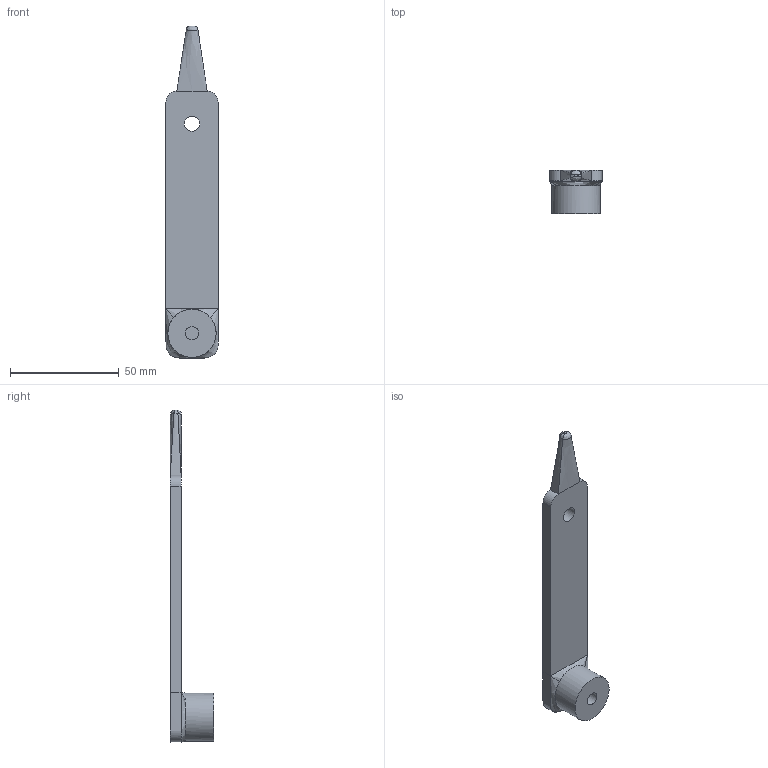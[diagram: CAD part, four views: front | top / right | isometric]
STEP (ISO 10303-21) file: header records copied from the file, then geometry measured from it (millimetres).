
FILE_DESCRIPTION(/* description */ (''),/* implementation_level */ '2;1');
FILE_NAME(/* name */ 'Link_Three.step',/* time_stamp */ '2026-01-10T17:45:08+05:30',/* author */ (''),/* organization */ (''),/* preprocessor_version */ 'ST-DEVELOPER v20.1',/* originating_system */ 'Autodesk Translation Framework v14.21.0.0',/* authorisation */ '');
FILE_SCHEMA (('AUTOMOTIVE_DESIGN { 1 0 10303 214 3 1 1 }'));
Length unit declared in the file: millimetre
Products named in the file (2): (Unsaved); Base Plate
Assembly tree (1 placements, depth 2):
  (Unsaved)
    Base Plate
Bounding box: 24 x 20 x 152.8 mm (x, y, z)
Volume: 21092.4 mm3; surface area: 9252.4 mm2
Topology: 1 solids, 1 shells, 23 faces, 49 edges, 29 vertices
Faces by surface type: bspline 11, plane 7, cylinder 5
Full cylindrical faces by diameter (mm): 6.1 x1, 7 x1, 22.2 x1
Entity records: 1701 total; most frequent: CARTESIAN_POINT 1195, ORIENTED_EDGE 98, DIRECTION 77, EDGE_CURVE 49, VERTEX_POINT 29, AXIS2_PLACEMENT_3D 27, EDGE_LOOP 26, FACE_OUTER_BOUND 23
